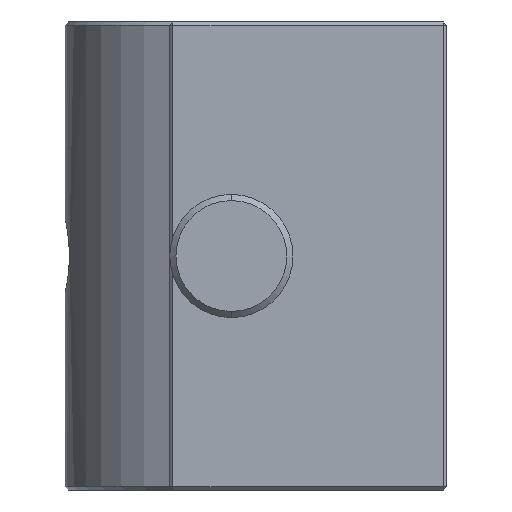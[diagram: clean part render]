
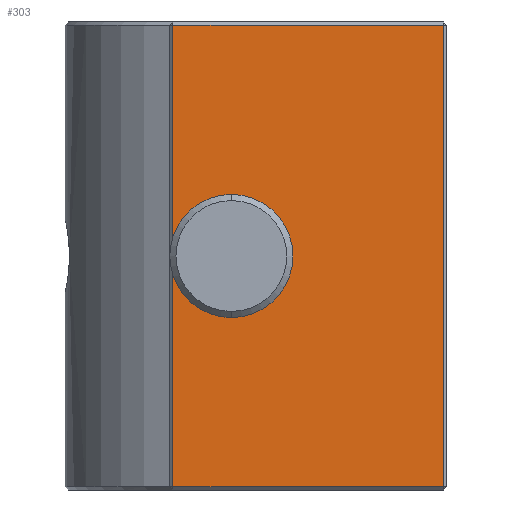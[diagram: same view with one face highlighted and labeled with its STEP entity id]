
A CAD part, left-side view. The second image highlights one B-rep face of the part: STEP entity #303.
In plain terms, the highlighted planar face has unit normal (-1, 0, 0).
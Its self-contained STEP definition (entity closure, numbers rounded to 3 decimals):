
#78 = VERTEX_POINT ( 'NONE', #3137 ) ;
#240 = CARTESIAN_POINT ( 'NONE',  ( -36.4, 12.025, 69. ) ) ;
#303 = ADVANCED_FACE ( 'NONE', ( #4375, #1457 ), #4503, .F. ) ;
#359 = DIRECTION ( 'NONE',  ( 0., 0., -1. ) ) ;
#368 = ORIENTED_EDGE ( 'NONE', *, *, #4116, .F. ) ;
#505 = ORIENTED_EDGE ( 'NONE', *, *, #1336, .F. ) ;
#546 = AXIS2_PLACEMENT_3D ( 'NONE', #3751, #4553, #1512 ) ;
#631 = LINE ( 'NONE', #240, #3136 ) ;
#781 = CARTESIAN_POINT ( 'NONE',  ( -36.4, 11.525, 69. ) ) ;
#1017 = DIRECTION ( 'NONE',  ( 0., -1., 0. ) ) ;
#1029 = CIRCLE ( 'NONE', #1914, 4.5 ) ;
#1094 = EDGE_LOOP ( 'NONE', ( #368, #505 ) ) ;
#1097 = ORIENTED_EDGE ( 'NONE', *, *, #3644, .T. ) ;
#1123 = VECTOR ( 'NONE', #1625, 1000. ) ;
#1158 = CARTESIAN_POINT ( 'NONE',  ( -36.4, 2.025, 111. ) ) ;
#1210 = ORIENTED_EDGE ( 'NONE', *, *, #4777, .T. ) ;
#1240 = EDGE_CURVE ( 'NONE', #78, #1825, #631, .T. ) ;
#1336 = EDGE_CURVE ( 'NONE', #3290, #4569, #1029, .T. ) ;
#1365 = CARTESIAN_POINT ( 'NONE',  ( -36.4, 2.025, 102. ) ) ;
#1457 = FACE_OUTER_BOUND ( 'NONE', #1614, .T. ) ;
#1512 = DIRECTION ( 'NONE',  ( 0., 0., 1. ) ) ;
#1561 = ORIENTED_EDGE ( 'NONE', *, *, #4089, .T. ) ;
#1614 = EDGE_LOOP ( 'NONE', ( #1210, #1561, #1983, #1097 ) ) ;
#1625 = DIRECTION ( 'NONE',  ( 0., 1., 0. ) ) ;
#1666 = VECTOR ( 'NONE', #3772, 1000. ) ;
#1754 = CARTESIAN_POINT ( 'NONE',  ( -36.4, 2.025, 106.5 ) ) ;
#1825 = VERTEX_POINT ( 'NONE', #3622 ) ;
#1912 = CARTESIAN_POINT ( 'NONE',  ( -36.4, 12.025, 68.5 ) ) ;
#1914 = AXIS2_PLACEMENT_3D ( 'NONE', #1754, #3963, #2142 ) ;
#1983 = ORIENTED_EDGE ( 'NONE', *, *, #1240, .T. ) ;
#1988 = CARTESIAN_POINT ( 'NONE',  ( -36.4, 11.525, 144. ) ) ;
#2142 = DIRECTION ( 'NONE',  ( 0., 0., 1. ) ) ;
#2271 = DIRECTION ( 'NONE',  ( 1., 0., 0. ) ) ;
#2311 = VECTOR ( 'NONE', #3408, 1000. ) ;
#2378 = CARTESIAN_POINT ( 'NONE',  ( -36.4, 12.025, 144. ) ) ;
#2664 = VERTEX_POINT ( 'NONE', #2693 ) ;
#2693 = CARTESIAN_POINT ( 'NONE',  ( -36.4, -32.475, 144. ) ) ;
#2696 = VERTEX_POINT ( 'NONE', #1988 ) ;
#3136 = VECTOR ( 'NONE', #1017, 1000. ) ;
#3137 = CARTESIAN_POINT ( 'NONE',  ( -36.4, 11.525, 69. ) ) ;
#3170 = LINE ( 'NONE', #781, #2311 ) ;
#3290 = VERTEX_POINT ( 'NONE', #1365 ) ;
#3402 = LINE ( 'NONE', #2378, #1123 ) ;
#3408 = DIRECTION ( 'NONE',  ( 0., 0., -1. ) ) ;
#3622 = CARTESIAN_POINT ( 'NONE',  ( -36.4, -32.475, 69. ) ) ;
#3639 = LINE ( 'NONE', #4511, #1666 ) ;
#3644 = EDGE_CURVE ( 'NONE', #1825, #2664, #3639, .T. ) ;
#3751 = CARTESIAN_POINT ( 'NONE',  ( -36.4, 2.025, 106.5 ) ) ;
#3772 = DIRECTION ( 'NONE',  ( 0., 0., 1. ) ) ;
#3933 = AXIS2_PLACEMENT_3D ( 'NONE', #1912, #2271, #359 ) ;
#3963 = DIRECTION ( 'NONE',  ( -1., 0., 0. ) ) ;
#4089 = EDGE_CURVE ( 'NONE', #2696, #78, #3170, .T. ) ;
#4116 = EDGE_CURVE ( 'NONE', #4569, #3290, #4285, .T. ) ;
#4285 = CIRCLE ( 'NONE', #546, 4.5 ) ;
#4375 = FACE_BOUND ( 'NONE', #1094, .T. ) ;
#4503 = PLANE ( 'NONE',  #3933 ) ;
#4511 = CARTESIAN_POINT ( 'NONE',  ( -36.4, -32.475, 68.5 ) ) ;
#4553 = DIRECTION ( 'NONE',  ( -1., 0., 0. ) ) ;
#4569 = VERTEX_POINT ( 'NONE', #1158 ) ;
#4777 = EDGE_CURVE ( 'NONE', #2664, #2696, #3402, .T. ) ;
